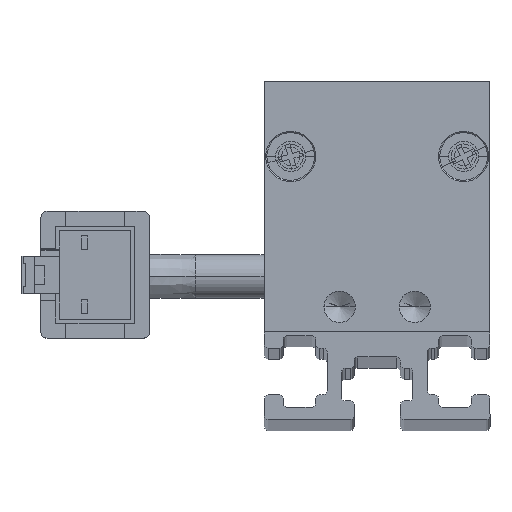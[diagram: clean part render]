
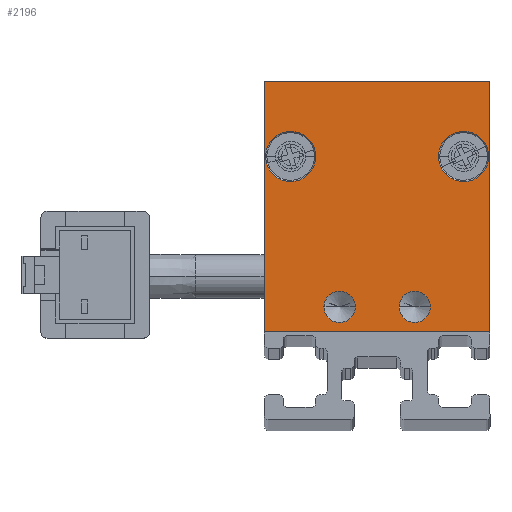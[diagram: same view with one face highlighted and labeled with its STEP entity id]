
A CAD part, top view. The second image highlights one B-rep face of the part: STEP entity #2196.
In plain terms, the highlighted planar face has unit normal (0, 0, 1) as drawn and (0, 0, -1) by its records, which use the part's own axes.
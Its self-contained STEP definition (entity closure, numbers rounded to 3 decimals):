
#85 = VECTOR ( 'NONE', #2114, 1000. ) ;
#377 = CIRCLE ( 'NONE', #11064, 2. ) ;
#423 = EDGE_CURVE ( 'NONE', #1835, #860, #9132, .T. ) ;
#463 = EDGE_CURVE ( 'NONE', #7441, #6778, #3685, .T. ) ;
#515 = AXIS2_PLACEMENT_3D ( 'NONE', #4688, #4563, #1848 ) ;
#536 = CARTESIAN_POINT ( 'NONE',  ( -9., 0., -2.5 ) ) ;
#860 = VERTEX_POINT ( 'NONE', #7768 ) ;
#874 = AXIS2_PLACEMENT_3D ( 'NONE', #2824, #8702, #4893 ) ;
#941 = ORIENTED_EDGE ( 'NONE', *, *, #1657, .F. ) ;
#1072 = ORIENTED_EDGE ( 'NONE', *, *, #4670, .F. ) ;
#1657 = EDGE_CURVE ( 'NONE', #5748, #11689, #9066, .T. ) ;
#1808 = EDGE_CURVE ( 'NONE', #8647, #8337, #8142, .T. ) ;
#1820 = CARTESIAN_POINT ( 'NONE',  ( 3., 2., -2.5 ) ) ;
#1827 = FACE_BOUND ( 'NONE', #3045, .T. ) ;
#1835 = VERTEX_POINT ( 'NONE', #3985 ) ;
#1848 = DIRECTION ( 'NONE',  ( -1., 0., 0. ) ) ;
#1948 = DIRECTION ( 'NONE',  ( 1., 0., 0. ) ) ;
#2003 = ORIENTED_EDGE ( 'NONE', *, *, #10572, .F. ) ;
#2080 = CARTESIAN_POINT ( 'NONE',  ( -3., 2., -2.5 ) ) ;
#2114 = DIRECTION ( 'NONE',  ( 1., 0., 0. ) ) ;
#2196 = ADVANCED_FACE ( 'NONE', ( #1827, #8651, #8774, #4789, #9540 ), #6863, .F. ) ;
#2511 = LINE ( 'NONE', #11099, #5006 ) ;
#2698 = CARTESIAN_POINT ( 'NONE',  ( -9., 20., -2.5 ) ) ;
#2703 = ORIENTED_EDGE ( 'NONE', *, *, #10125, .F. ) ;
#2824 = CARTESIAN_POINT ( 'NONE',  ( -6.9, 14., -2.5 ) ) ;
#2853 = DIRECTION ( 'NONE',  ( -1., 0., 0. ) ) ;
#3045 = EDGE_LOOP ( 'NONE', ( #8875, #5800 ) ) ;
#3270 = AXIS2_PLACEMENT_3D ( 'NONE', #11685, #5230, #8062 ) ;
#3378 = CIRCLE ( 'NONE', #8016, 1.25 ) ;
#3685 = CIRCLE ( 'NONE', #874, 2. ) ;
#3963 = DIRECTION ( 'NONE',  ( -1., 0., 0. ) ) ;
#3985 = CARTESIAN_POINT ( 'NONE',  ( 8.9, 14., -2.5 ) ) ;
#3995 = CARTESIAN_POINT ( 'NONE',  ( -6.9, 14., -2.5 ) ) ;
#4408 = CARTESIAN_POINT ( 'NONE',  ( 9., 20., -2.5 ) ) ;
#4563 = DIRECTION ( 'NONE',  ( 0., 0., -1. ) ) ;
#4670 = EDGE_CURVE ( 'NONE', #8337, #8647, #7765, .T. ) ;
#4688 = CARTESIAN_POINT ( 'NONE',  ( -3., 2., -2.5 ) ) ;
#4789 = FACE_BOUND ( 'NONE', #12204, .T. ) ;
#4810 = CIRCLE ( 'NONE', #8858, 2. ) ;
#4893 = DIRECTION ( 'NONE',  ( -1., 0., 0. ) ) ;
#5006 = VECTOR ( 'NONE', #7111, 1000. ) ;
#5058 = DIRECTION ( 'NONE',  ( 0., 0., -1. ) ) ;
#5084 = EDGE_LOOP ( 'NONE', ( #6506, #8150 ) ) ;
#5125 = DIRECTION ( 'NONE',  ( 0., 0., -1. ) ) ;
#5230 = DIRECTION ( 'NONE',  ( 0., 0., -1. ) ) ;
#5510 = DIRECTION ( 'NONE',  ( -1., 0., 0. ) ) ;
#5748 = VERTEX_POINT ( 'NONE', #536 ) ;
#5800 = ORIENTED_EDGE ( 'NONE', *, *, #423, .F. ) ;
#5807 = VECTOR ( 'NONE', #10095, 1000. ) ;
#5883 = CARTESIAN_POINT ( 'NONE',  ( 9., 20., -2.5 ) ) ;
#5910 = DIRECTION ( 'NONE',  ( -1., 0., 0. ) ) ;
#6003 = VECTOR ( 'NONE', #3963, 1000. ) ;
#6122 = CARTESIAN_POINT ( 'NONE',  ( 9., 0., -2.5 ) ) ;
#6420 = LINE ( 'NONE', #4408, #5807 ) ;
#6437 = CIRCLE ( 'NONE', #6639, 1.25 ) ;
#6452 = DIRECTION ( 'NONE',  ( 0., 0., -1. ) ) ;
#6506 = ORIENTED_EDGE ( 'NONE', *, *, #8422, .F. ) ;
#6639 = AXIS2_PLACEMENT_3D ( 'NONE', #10378, #6452, #5510 ) ;
#6738 = LINE ( 'NONE', #2698, #6003 ) ;
#6778 = VERTEX_POINT ( 'NONE', #8986 ) ;
#6863 = PLANE ( 'NONE',  #7746 ) ;
#6874 = DIRECTION ( 'NONE',  ( 0., 0., -1. ) ) ;
#6902 = CARTESIAN_POINT ( 'NONE',  ( -9., 0., -2.5 ) ) ;
#7109 = ORIENTED_EDGE ( 'NONE', *, *, #7488, .F. ) ;
#7111 = DIRECTION ( 'NONE',  ( 0., -1., 0. ) ) ;
#7266 = CARTESIAN_POINT ( 'NONE',  ( -4.25, 2., -2.5 ) ) ;
#7338 = EDGE_CURVE ( 'NONE', #11689, #8481, #6420, .T. ) ;
#7441 = VERTEX_POINT ( 'NONE', #10536 ) ;
#7488 = EDGE_CURVE ( 'NONE', #9712, #8028, #3378, .T. ) ;
#7566 = DIRECTION ( 'NONE',  ( 0., 0., -1. ) ) ;
#7590 = EDGE_CURVE ( 'NONE', #8481, #11959, #6738, .T. ) ;
#7599 = CARTESIAN_POINT ( 'NONE',  ( -1.75, 2., -2.5 ) ) ;
#7746 = AXIS2_PLACEMENT_3D ( 'NONE', #10604, #11609, #1948 ) ;
#7765 = CIRCLE ( 'NONE', #515, 1.25 ) ;
#7768 = CARTESIAN_POINT ( 'NONE',  ( 4.9, 14., -2.5 ) ) ;
#7904 = ORIENTED_EDGE ( 'NONE', *, *, #7338, .F. ) ;
#8016 = AXIS2_PLACEMENT_3D ( 'NONE', #1820, #7566, #5910 ) ;
#8028 = VERTEX_POINT ( 'NONE', #10706 ) ;
#8062 = DIRECTION ( 'NONE',  ( -1., 0., 0. ) ) ;
#8142 = CIRCLE ( 'NONE', #10767, 1.25 ) ;
#8150 = ORIENTED_EDGE ( 'NONE', *, *, #463, .F. ) ;
#8337 = VERTEX_POINT ( 'NONE', #7599 ) ;
#8399 = EDGE_CURVE ( 'NONE', #860, #1835, #377, .T. ) ;
#8422 = EDGE_CURVE ( 'NONE', #6778, #7441, #4810, .T. ) ;
#8481 = VERTEX_POINT ( 'NONE', #5883 ) ;
#8498 = CARTESIAN_POINT ( 'NONE',  ( 1.75, 2., -2.5 ) ) ;
#8647 = VERTEX_POINT ( 'NONE', #7266 ) ;
#8651 = FACE_BOUND ( 'NONE', #5084, .T. ) ;
#8702 = DIRECTION ( 'NONE',  ( 0., 0., -1. ) ) ;
#8774 = FACE_BOUND ( 'NONE', #11925, .T. ) ;
#8858 = AXIS2_PLACEMENT_3D ( 'NONE', #3995, #5125, #11890 ) ;
#8875 = ORIENTED_EDGE ( 'NONE', *, *, #8399, .F. ) ;
#8920 = DIRECTION ( 'NONE',  ( -1., 0., 0. ) ) ;
#8986 = CARTESIAN_POINT ( 'NONE',  ( -8.9, 14., -2.5 ) ) ;
#9066 = LINE ( 'NONE', #6902, #85 ) ;
#9132 = CIRCLE ( 'NONE', #3270, 2. ) ;
#9540 = FACE_OUTER_BOUND ( 'NONE', #9861, .T. ) ;
#9712 = VERTEX_POINT ( 'NONE', #8498 ) ;
#9861 = EDGE_LOOP ( 'NONE', ( #2703, #11921, #7904, #941 ) ) ;
#9992 = CARTESIAN_POINT ( 'NONE',  ( 6.9, 14., -2.5 ) ) ;
#10095 = DIRECTION ( 'NONE',  ( 0., 1., 0. ) ) ;
#10125 = EDGE_CURVE ( 'NONE', #11959, #5748, #2511, .T. ) ;
#10378 = CARTESIAN_POINT ( 'NONE',  ( 3., 2., -2.5 ) ) ;
#10536 = CARTESIAN_POINT ( 'NONE',  ( -4.9, 14., -2.5 ) ) ;
#10572 = EDGE_CURVE ( 'NONE', #8028, #9712, #6437, .T. ) ;
#10604 = CARTESIAN_POINT ( 'NONE',  ( 0., 0., -2.5 ) ) ;
#10706 = CARTESIAN_POINT ( 'NONE',  ( 4.25, 2., -2.5 ) ) ;
#10767 = AXIS2_PLACEMENT_3D ( 'NONE', #2080, #6874, #2853 ) ;
#11064 = AXIS2_PLACEMENT_3D ( 'NONE', #9992, #5058, #8920 ) ;
#11099 = CARTESIAN_POINT ( 'NONE',  ( -9., 20., -2.5 ) ) ;
#11609 = DIRECTION ( 'NONE',  ( 0., 0., 1. ) ) ;
#11685 = CARTESIAN_POINT ( 'NONE',  ( 6.9, 14., -2.5 ) ) ;
#11689 = VERTEX_POINT ( 'NONE', #6122 ) ;
#11890 = DIRECTION ( 'NONE',  ( -1., 0., 0. ) ) ;
#11921 = ORIENTED_EDGE ( 'NONE', *, *, #7590, .F. ) ;
#11925 = EDGE_LOOP ( 'NONE', ( #7109, #2003 ) ) ;
#11959 = VERTEX_POINT ( 'NONE', #12058 ) ;
#12058 = CARTESIAN_POINT ( 'NONE',  ( -9., 20., -2.5 ) ) ;
#12083 = ORIENTED_EDGE ( 'NONE', *, *, #1808, .F. ) ;
#12204 = EDGE_LOOP ( 'NONE', ( #12083, #1072 ) ) ;
